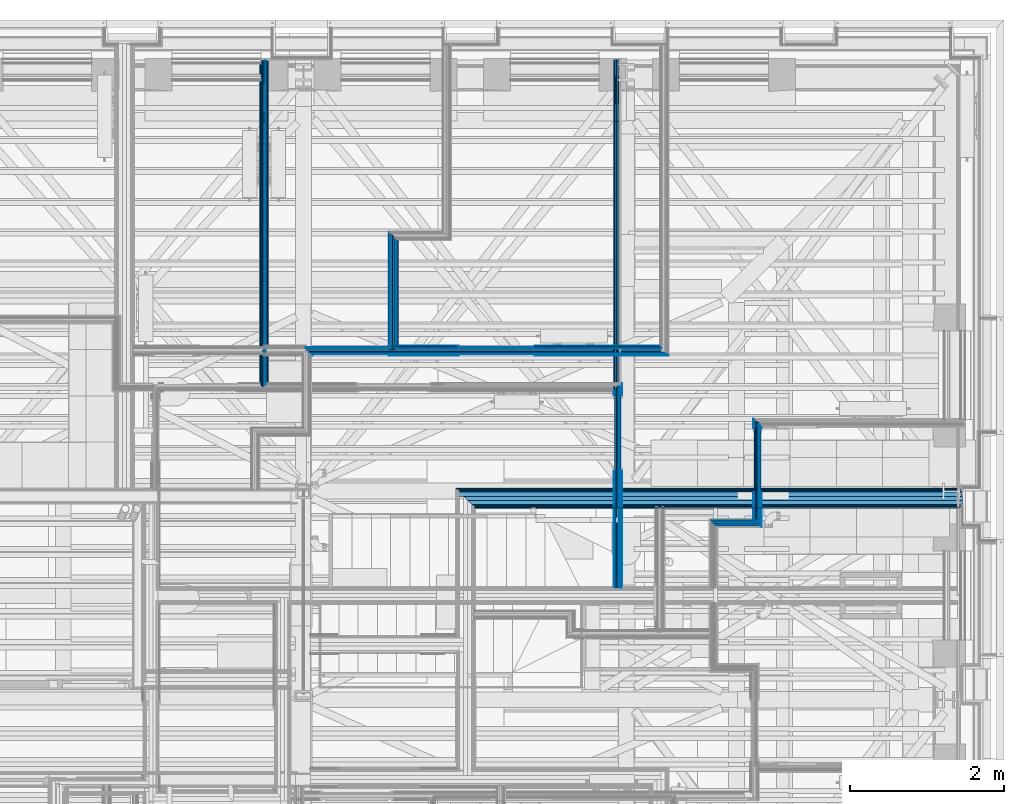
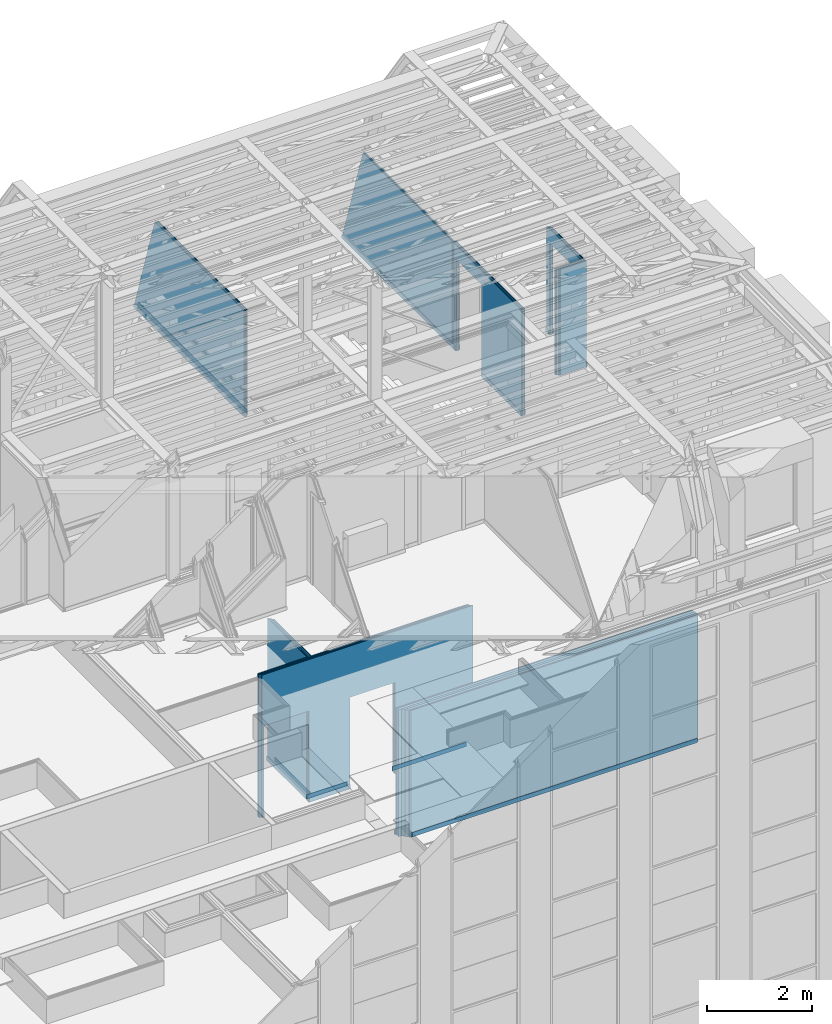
# One storey, part 58 of 183: 57 building element parts, 4 openings, 7 elements without a shape of their own.
"""IFC2X3 building model written with IfcOpenShell, lengths in metres."""

from ifc_helpers import new_model, entity, si_unit, converted_unit, derived_unit, money_unit, direction, frame, frame_2d, origin_with_axes, place, context, subcontext, project, spatial, polyline, rectangle, outline, extrude, clip, halfspace, material, type_object, element, aggregate, save


model = new_model("IFC2X3")

# Units and contexts
model_context = context("Model", 3, precision=1e-05, world=origin_with_axes(), true_north=direction((0.0, 1.0)))
body_context = subcontext(model_context, "Body", "Model", "MODEL_VIEW", scale=1.0)
ifc_project = project(units=[si_unit("LENGTHUNIT", "METRE"), si_unit("AREAUNIT", "SQUARE_METRE"), si_unit("VOLUMEUNIT", "CUBIC_METRE"), si_unit("ABSORBEDDOSEUNIT", "GRAY"), si_unit("AMOUNTOFSUBSTANCEUNIT", "MOLE"), si_unit("DOSEEQUIVALENTUNIT", "SIEVERT"), si_unit("ELECTRICCAPACITANCEUNIT", "FARAD"), si_unit("ELECTRICCHARGEUNIT", "COULOMB"), si_unit("ELECTRICCONDUCTANCEUNIT", "SIEMENS"), si_unit("ELECTRICCURRENTUNIT", "AMPERE"), si_unit("ELECTRICRESISTANCEUNIT", "OHM"), si_unit("ELECTRICVOLTAGEUNIT", "VOLT"), si_unit("ENERGYUNIT", "JOULE"), si_unit("FORCEUNIT", "NEWTON"), si_unit("FREQUENCYUNIT", "HERTZ"), si_unit("ILLUMINANCEUNIT", "LUX"), si_unit("INDUCTANCEUNIT", "HENRY"), si_unit("LUMINOUSFLUXUNIT", "LUMEN"), si_unit("LUMINOUSINTENSITYUNIT", "CANDELA"), si_unit("MAGNETICFLUXDENSITYUNIT", "TESLA"), si_unit("MAGNETICFLUXUNIT", "WEBER"), si_unit("MASSUNIT", "GRAM"), converted_unit("PLANEANGLEUNIT", "degree", entity("IfcReal", 0.0174532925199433), si_unit("PLANEANGLEUNIT", "RADIAN"), dimensions=[0, 0, 0, 0, 0, 0, 0]), si_unit("POWERUNIT", "WATT"), si_unit("PRESSUREUNIT", "PASCAL"), si_unit("RADIOACTIVITYUNIT", "BECQUEREL"), si_unit("SOLIDANGLEUNIT", "STERADIAN"), si_unit("THERMODYNAMICTEMPERATUREUNIT", "KELVIN"), si_unit("TIMEUNIT", "SECOND"), derived_unit("ACCELERATIONUNIT", [(si_unit("LENGTHUNIT", "METRE"), 1), (si_unit("TIMEUNIT", "SECOND"), -2)]), derived_unit("ANGULARVELOCITYUNIT", [(converted_unit("PLANEANGLEUNIT", "degree", entity("IfcReal", 0.0174532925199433), si_unit("PLANEANGLEUNIT", "RADIAN"), dimensions=[0, 0, 0, 0, 0, 0, 0]), 1), (si_unit("TIMEUNIT", "SECOND"), -1)]), derived_unit("CURVATUREUNIT", [(converted_unit("PLANEANGLEUNIT", "degree", entity("IfcReal", 0.0174532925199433), si_unit("PLANEANGLEUNIT", "RADIAN"), dimensions=[0, 0, 0, 0, 0, 0, 0]), 1), (si_unit("LENGTHUNIT", "METRE"), -1)]), derived_unit("DYNAMICVISCOSITYUNIT", [(si_unit("PRESSUREUNIT", "PASCAL"), 1), (si_unit("TIMEUNIT", "SECOND"), 1)]), derived_unit("HEATFLUXDENSITYUNIT", [(si_unit("POWERUNIT", "WATT"), 1), (si_unit("LENGTHUNIT", "METRE"), -2)]), derived_unit("HEATINGVALUEUNIT", [(si_unit("ENERGYUNIT", "JOULE"), 1), (si_unit("MASSUNIT", "GRAM"), -1)]), derived_unit("INTEGERCOUNTRATEUNIT", [(si_unit("TIMEUNIT", "SECOND"), -1)]), derived_unit("IONCONCENTRATIONUNIT", [(si_unit("MASSUNIT", "GRAM"), 1), (si_unit("VOLUMEUNIT", "CUBIC_METRE"), -1)]), derived_unit("ISOTHERMALMOISTURECAPACITYUNIT", [(si_unit("VOLUMEUNIT", "CUBIC_METRE"), 1), (si_unit("MASSUNIT", "GRAM"), -1)]), derived_unit("KINEMATICVISCOSITYUNIT", [(si_unit("AREAUNIT", "SQUARE_METRE"), 1), (si_unit("TIMEUNIT", "SECOND"), -1)]), derived_unit("LINEARFORCEUNIT", [(si_unit("FORCEUNIT", "NEWTON"), 1), (si_unit("LENGTHUNIT", "METRE"), -1)]), derived_unit("LINEARMOMENTUNIT", [(si_unit("FORCEUNIT", "NEWTON"), 1), (si_unit("LENGTHUNIT", "METRE"), -1)]), derived_unit("LINEARSTIFFNESSUNIT", [(si_unit("FORCEUNIT", "NEWTON"), 1), (si_unit("LENGTHUNIT", "METRE"), -1)]), derived_unit("LINEARVELOCITYUNIT", [(si_unit("LENGTHUNIT", "METRE"), 1), (si_unit("TIMEUNIT", "SECOND"), -1)]), derived_unit("LUMINOUSINTENSITYDISTRIBUTIONUNIT", [(si_unit("LUMINOUSINTENSITYUNIT", "CANDELA"), 1), (si_unit("LUMINOUSFLUXUNIT", "LUMEN"), -1)]), derived_unit("MASSDENSITYUNIT", [(si_unit("MASSUNIT", "GRAM"), 1), (si_unit("VOLUMEUNIT", "CUBIC_METRE"), -1)]), derived_unit("MASSFLOWRATEUNIT", [(si_unit("MASSUNIT", "GRAM"), 1), (si_unit("TIMEUNIT", "SECOND"), -1)]), derived_unit("MASSPERLENGTHUNIT", [(si_unit("MASSUNIT", "GRAM"), 1), (si_unit("LENGTHUNIT", "METRE"), -1)]), derived_unit("MODULUSOFELASTICITYUNIT", [(si_unit("FORCEUNIT", "NEWTON"), 1), (si_unit("AREAUNIT", "SQUARE_METRE"), -1)]), derived_unit("MODULUSOFLINEARSUBGRADEREACTIONUNIT", [(si_unit("FORCEUNIT", "NEWTON"), 1), (si_unit("LENGTHUNIT", "METRE"), -2)]), derived_unit("MODULUSOFROTATIONALSUBGRADEREACTIONUNIT", [(si_unit("FORCEUNIT", "NEWTON"), 1), (si_unit("LENGTHUNIT", "METRE"), 1)]), derived_unit("MODULUSOFSUBGRADEREACTIONUNIT", [(si_unit("FORCEUNIT", "NEWTON"), 1), (si_unit("VOLUMEUNIT", "CUBIC_METRE"), -1)]), derived_unit("MOISTUREDIFFUSIVITYUNIT", [(si_unit("VOLUMEUNIT", "CUBIC_METRE"), 1), (si_unit("TIMEUNIT", "SECOND"), -1)]), derived_unit("MOLECULARWEIGHTUNIT", [(si_unit("MASSUNIT", "GRAM"), 1), (si_unit("AMOUNTOFSUBSTANCEUNIT", "MOLE"), -1)]), derived_unit("PLANARFORCEUNIT", [(si_unit("FORCEUNIT", "NEWTON"), 1), (si_unit("LENGTHUNIT", "METRE"), -2)]), derived_unit("ROTATIONALFREQUENCYUNIT", [(si_unit("TIMEUNIT", "SECOND"), -1)]), derived_unit("ROTATIONALMASSUNIT", [(si_unit("MASSUNIT", "GRAM"), 1), (si_unit("LENGTHUNIT", "METRE"), 2)]), derived_unit("ROTATIONALSTIFFNESSUNIT", [(si_unit("FORCEUNIT", "NEWTON"), 1), (si_unit("LENGTHUNIT", "METRE"), 1), (converted_unit("PLANEANGLEUNIT", "degree", entity("IfcReal", 0.0174532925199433), si_unit("PLANEANGLEUNIT", "RADIAN"), dimensions=[0, 0, 0, 0, 0, 0, 0]), -1)]), derived_unit("SECTIONAREAINTEGRALUNIT", [(si_unit("LENGTHUNIT", "METRE"), 5)]), derived_unit("SECTIONMODULUSUNIT", [(si_unit("LENGTHUNIT", "METRE"), 3)]), derived_unit("SHEARMODULUSUNIT", [(si_unit("FORCEUNIT", "NEWTON"), 1), (si_unit("AREAUNIT", "SQUARE_METRE"), -1)]), derived_unit("SOUNDPOWERUNIT", [(si_unit("ENERGYUNIT", "JOULE"), 1), (si_unit("TIMEUNIT", "SECOND"), -1)]), derived_unit("SPECIFICHEATCAPACITYUNIT", [(si_unit("FORCEUNIT", "NEWTON"), 1), (si_unit("MASSUNIT", "GRAM"), -1), (si_unit("THERMODYNAMICTEMPERATUREUNIT", "KELVIN"), -1)]), derived_unit("TEMPERATUREGRADIENTUNIT", [(si_unit("THERMODYNAMICTEMPERATUREUNIT", "KELVIN"), 1), (si_unit("LENGTHUNIT", "METRE"), -1)]), derived_unit("THERMALADMITTANCEUNIT", [(si_unit("POWERUNIT", "WATT"), 1), (si_unit("AREAUNIT", "SQUARE_METRE"), -1), (si_unit("THERMODYNAMICTEMPERATUREUNIT", "KELVIN"), -1)]), derived_unit("THERMALCONDUCTANCEUNIT", [(si_unit("POWERUNIT", "WATT"), 1), (si_unit("LENGTHUNIT", "METRE"), -1), (si_unit("THERMODYNAMICTEMPERATUREUNIT", "KELVIN"), -1)]), derived_unit("THERMALEXPANSIONCOEFFICIENTUNIT", [(si_unit("THERMODYNAMICTEMPERATUREUNIT", "KELVIN"), -1)]), derived_unit("THERMALRESISTANCEUNIT", [(si_unit("AREAUNIT", "SQUARE_METRE"), 1), (si_unit("POWERUNIT", "WATT"), -1)]), derived_unit("THERMALTRANSMITTANCEUNIT", [(si_unit("POWERUNIT", "WATT"), 1), (si_unit("AREAUNIT", "SQUARE_METRE"), -1), (si_unit("THERMODYNAMICTEMPERATUREUNIT", "KELVIN"), -1)]), derived_unit("TORQUEUNIT", [(si_unit("FORCEUNIT", "NEWTON"), 1), (si_unit("LENGTHUNIT", "METRE"), 1)]), derived_unit("VAPORPERMEABILITYUNIT", [(si_unit("MASSUNIT", "GRAM"), 1), (si_unit("TIMEUNIT", "SECOND"), -1)]), derived_unit("VOLUMETRICFLOWRATEUNIT", [(si_unit("VOLUMEUNIT", "CUBIC_METRE"), 1), (si_unit("TIMEUNIT", "SECOND"), -1)]), derived_unit("WARPINGCONSTANTUNIT", [(si_unit("LENGTHUNIT", "METRE"), 6)]), derived_unit("WARPINGMOMENTUNIT", [(si_unit("FORCEUNIT", "NEWTON"), 1), (si_unit("LENGTHUNIT", "METRE"), 2)]), money_unit("GBP")], contexts=[model_context])

# Site, building, storey
site_placement = place(None, origin_with_axes())
site = spatial("IfcSite", under=ifc_project, at=site_placement, Name="Site", CompositionType="ELEMENT")
building_placement = place(site_placement, origin_with_axes())
building = spatial("IfcBuilding", under=site, at=building_placement, Name="Building01", CompositionType="ELEMENT")
storey_placement = place(building_placement, frame((0.0, 0.0, 5.15), z_axis=(0.0, 0.0, 1.0), x_axis=(1.0, 0.0, 0.0)))
storey = spatial("IfcBuildingStorey", under=building, at=storey_placement, Name="1F", CompositionType="ELEMENT", Elevation=5.15)

# Wall, building element parts
wall_type_1 = type_object("IfcWallType", Name="SHE_A-Walls_Type05a_Partition_95mm_tall", PredefinedType="NOTDEFINED")
wall_1_placement = place(storey_placement, frame((19.085284, 10.63, 0.0), z_axis=(0.0, 0.0, 1.0), x_axis=(0.0, 1.0, 0.0)))
wall_1 = element("IfcWall", 1, at=wall_1_placement, inside=storey, type_object=wall_type_1, Name="5A", ObjectType="SHE_A-Walls_Type05a_Partition_95mm_tall")
ifc_material_1 = material(Name="A_BSUK_Walls_Timber")
placement_1 = place(wall_1_placement, origin_with_axes())
building_element_part_1 = element("IfcBuildingElementPart", 2, at=placement_1, material=ifc_material_1, Name="1", context=body_context, shape_type="SweptSolid", body=[
    extrude(outline(polyline([(1.434378, -0.035), (0.05, -0.035), (0.05, -0.05), (1.419378, -0.05), (1.434378, -0.035)])), frame((0.0, 0.0, 0.015), z_axis=(0.0, 0.0, 1.0), x_axis=(1.0, 0.0, 0.0)), (0.0, 0.0, 1.0), 0.1),
])
ifc_material_2 = material(Name="A_BSUK_WallInternal_Finishes_Plasterboard")
building_element_part_2 = element("IfcBuildingElementPart", 3, at=placement_1, material=ifc_material_2, Name="2", context=body_context, shape_type="SweptSolid", body=[
    extrude(outline(polyline([(1.446378, -0.023), (0.035, -0.023), (0.035, -0.035), (1.434378, -0.035), (1.446378, -0.023)])), origin_with_axes(), (0.0, 0.0, 1.0), 3.32),
])
ifc_material_3 = material(Name="Air Cavity")
building_element_part_3 = element("IfcBuildingElementPart", 4, at=placement_1, material=ifc_material_3, Name="3", context=body_context, shape_type="SweptSolid", body=[
    extrude(outline(polyline([(1.469378, 0.0), (0.035, 0.0), (0.035, -0.023), (1.446378, -0.023), (1.469378, 0.0)])), origin_with_axes(), (0.0, 0.0, 1.0), 3.32),
])
ifc_material_4 = material(Name="A_BSUK_Insulation")
building_element_part_4 = element("IfcBuildingElementPart", 5, at=placement_1, material=ifc_material_4, Name="4", context=body_context, shape_type="SweptSolid", body=[
    extrude(outline(polyline([(1.494378, 0.025), (0.0, 0.025), (0.0, 0.0), (1.469378, 0.0), (1.494378, 0.025)])), origin_with_axes(), (0.0, 0.0, 1.0), 3.32),
])
building_element_part_5 = element("IfcBuildingElementPart", 6, at=placement_1, material=ifc_material_3, Name="5", context=body_context, shape_type="SweptSolid", body=[
    extrude(outline(polyline([(1.517378, 0.048), (0.0, 0.048), (0.0, 0.025), (1.494378, 0.025), (1.517378, 0.048)])), origin_with_axes(), (0.0, 0.0, 1.0), 3.32),
])
building_element_part_6 = element("IfcBuildingElementPart", 7, at=placement_1, material=ifc_material_2, Name="6", context=body_context, shape_type="SweptSolid", body=[
    extrude(outline(polyline([(1.529378, 0.06), (0.035, 0.06), (0.035, 0.048), (1.517378, 0.048), (1.529378, 0.06)])), origin_with_axes(), (0.0, 0.0, 1.0), 3.32),
])
building_element_part_7 = element("IfcBuildingElementPart", 8, at=placement_1, material=ifc_material_1, Name="7", context=body_context, shape_type="SweptSolid", body=[
    extrude(outline(polyline([(1.544378, 0.075), (0.05, 0.075), (0.035, 0.06), (1.529378, 0.06), (1.544378, 0.075)])), frame((0.0, 0.0, 0.015), z_axis=(0.0, 0.0, 1.0), x_axis=(1.0, 0.0, 0.0)), (0.0, 0.0, 1.0), 0.1),
])
aggregate(wall_1, [building_element_part_1, building_element_part_2, building_element_part_3, building_element_part_4, building_element_part_5, building_element_part_6, building_element_part_7])

wall_type_2 = type_object("IfcWallType", Name="SHE_A-Walls_Type01c_Partywall_225mm_twin_tall", PredefinedType="NOTDEFINED")
wall_2_placement = place(storey_placement, frame((26.444, 8.732, 0.0), z_axis=(0.0, 0.0, 1.0), x_axis=(-1.0, 0.0, 0.0)))
wall_2 = element("IfcWall", 9, at=wall_2_placement, inside=storey, type_object=wall_type_2, Name="1C", ObjectType="SHE_A-Walls_Type01c_Partywall_225mm_twin_tall")
placement_2 = place(wall_2_placement, origin_with_axes())
building_element_part_8 = element("IfcBuildingElementPart", 10, at=placement_2, material=ifc_material_1, Name="1", context=body_context, shape_type="SweptSolid", body=[
    extrude(outline(polyline([(6.546339, -0.088), (0.027, -0.088), (0.027, -0.103), (6.561339, -0.103), (6.546339, -0.088)])), frame((0.0, 0.0, 0.015), z_axis=(0.0, 0.0, 1.0), x_axis=(1.0, 0.0, 0.0)), (0.0, 0.0, 1.0), 0.1),
])
building_element_part_9 = element("IfcBuildingElementPart", 11, at=placement_2, material=ifc_material_2, Name="2", context=body_context, shape_type="SweptSolid", body=[
    extrude(rectangle(XDim=6.504339, YDim=0.015, at=frame_2d((3.279169, -0.0805), x_axis=(-1.0, 0.0))), origin_with_axes(), (0.0, 0.0, 1.0), 2.95),
])
building_element_part_10 = element("IfcBuildingElementPart", 12, at=placement_2, material=ifc_material_2, Name="3", context=body_context, shape_type="SweptSolid", body=[
    extrude(rectangle(XDim=6.504339, YDim=0.015, at=frame_2d((3.264169, -0.0655), x_axis=(-1.0, 0.0))), origin_with_axes(), (0.0, 0.0, 1.0), 2.95),
])
building_element_part_11 = element("IfcBuildingElementPart", 13, at=placement_2, material=ifc_material_3, Name="4", context=body_context, shape_type="SweptSolid", body=[
    extrude(rectangle(XDim=6.504339, YDim=0.058, at=frame_2d((3.264169, -0.029), x_axis=(-1.0, 0.0))), origin_with_axes(), (0.0, 0.0, 1.0), 2.95),
])
building_element_part_12 = element("IfcBuildingElementPart", 14, at=placement_2, material=ifc_material_4, Name="5", context=body_context, shape_type="SweptSolid", body=[
    extrude(outline(polyline([(6.408339, 0.05), (0.0, 0.05), (0.0, 0.0), (6.458339, 0.0), (6.408339, 0.05)])), origin_with_axes(), (0.0, 0.0, 1.0), 2.95),
])
building_element_part_13 = element("IfcBuildingElementPart", 15, at=placement_2, material=ifc_material_3, Name="6", context=body_context, shape_type="SweptSolid", body=[
    extrude(outline(polyline([(6.351339, 0.107), (0.0, 0.107), (0.0, 0.05), (6.408339, 0.05), (6.351339, 0.107)])), origin_with_axes(), (0.0, 0.0, 1.0), 2.95),
])
building_element_part_14 = element("IfcBuildingElementPart", 16, at=placement_2, material=ifc_material_2, Name="7", context=body_context, shape_type="SweptSolid", body=[
    extrude(rectangle(XDim=0.015, YDim=6.339339, at=frame_2d((3.181669, 0.1145), x_axis=(0.0, -1.0))), origin_with_axes(), (0.0, 0.0, 1.0), 2.95),
])
building_element_part_15 = element("IfcBuildingElementPart", 17, at=placement_2, material=ifc_material_2, Name="8", context=body_context, shape_type="SweptSolid", body=[
    extrude(rectangle(XDim=6.294339, YDim=0.015, at=frame_2d((3.174169, 0.1295), x_axis=(-1.0, 0.0))), origin_with_axes(), (0.0, 0.0, 1.0), 2.95),
])
building_element_part_16 = element("IfcBuildingElementPart", 18, at=placement_2, material=ifc_material_1, Name="9", context=body_context, shape_type="SweptSolid", body=[
    extrude(outline(polyline([(6.306339, 0.152), (0.042, 0.152), (0.027, 0.137), (6.321339, 0.137), (6.306339, 0.152)])), frame((0.0, 0.0, 0.015), z_axis=(0.0, 0.0, 1.0), x_axis=(1.0, 0.0, 0.0)), (0.0, 0.0, 1.0), 0.1),
])
building_element_part_17 = element("IfcBuildingElementPart", 19, at=placement_2, material=ifc_material_1, Name="10", context=body_context, shape_type="SweptSolid", body=[
    extrude(outline(polyline([(6.306339, 0.152), (0.042, 0.152), (0.027, 0.137), (6.321339, 0.137), (6.306339, 0.152)])), frame((0.0, 0.0, 0.015), z_axis=(0.0, 0.0, 1.0), x_axis=(1.0, 0.0, 0.0)), (0.0, 0.0, 1.0), 0.1),
])
building_element_part_18 = element("IfcBuildingElementPart", 20, at=placement_2, material=ifc_material_1, Name="12", context=body_context, shape_type="SweptSolid", body=[
    extrude(outline(polyline([(6.321339, 0.152), (0.042, 0.152), (0.027, 0.137), (6.336339, 0.137), (6.321339, 0.152)])), frame((0.0, 0.0, 0.015), z_axis=(0.0, 0.0, 1.0), x_axis=(1.0, 0.0, 0.0)), (0.0, 0.0, 1.0), 0.1),
])
aggregate(wall_2, [building_element_part_8, building_element_part_9, building_element_part_10, building_element_part_11, building_element_part_12, building_element_part_13, building_element_part_14, building_element_part_15, building_element_part_16, building_element_part_17, building_element_part_18])

# Wall, openings, building element parts
wall_3_placement = place(storey_placement, frame((17.94, 10.605, 0.0), z_axis=(0.0, 0.0, 1.0), x_axis=(1.0, 0.0, 0.0)))
wall_3 = element("IfcWall", 21, at=wall_3_placement, inside=storey, type_object=wall_type_1, Name="5A", ObjectType="SHE_A-Walls_Type05a_Partition_95mm_tall")
opening_1_placement = place(wall_3_placement, frame((0.093398, -0.05, -0.015), z_axis=(0.0, 0.0, 1.0), x_axis=(1.0, 0.0, 0.0)))
element("IfcOpeningElement", 22, at=opening_1_placement, cuts=wall_3, Name="Opening", ObjectType="Opening", context=body_context, shape_type="SweptSolid", body=[
    extrude(rectangle(XDim=0.984, YDim=2.142, at=frame_2d((-0.492, 1.071), x_axis=(1.0, 0.0))), frame((0.0, 0.0, 0.0), z_axis=(0.0, 1.0, 0.0), x_axis=(-1.0, 0.0, 0.0)), (0.0, 0.0, 1.0), 0.125),
])
opening_2_placement = place(wall_3_placement, frame((1.978284, -0.05, -0.015), z_axis=(0.0, 0.0, 1.0), x_axis=(1.0, 0.0, 0.0)))
element("IfcOpeningElement", 23, at=opening_2_placement, cuts=wall_3, Name="Opening", ObjectType="Opening", context=body_context, shape_type="SweptSolid", body=[
    extrude(rectangle(XDim=0.984, YDim=2.142, at=frame_2d((-0.492, 1.071), x_axis=(-1.0, 0.0))), frame((0.0, 0.0, 0.0), z_axis=(0.0, 1.0, 0.0), x_axis=(-1.0, 0.0, 0.0)), (0.0, 0.0, 1.0), 0.125),
])
placement_3 = place(wall_3_placement, origin_with_axes())
building_element_part_19 = element("IfcBuildingElementPart", 24, at=placement_3, material=ifc_material_1, Name="1", context=body_context, shape_type="SweptSolid", body=[
    extrude(outline(polyline([(4.685, -0.035), (0.06, -0.035), (0.06, -0.05), (4.7, -0.05), (4.685, -0.035)])), frame((0.0, 0.0, 0.015), z_axis=(0.0, 0.0, 1.0), x_axis=(1.0, 0.0, 0.0)), (0.0, 0.0, 1.0), 0.1),
])
building_element_part_20 = element("IfcBuildingElementPart", 25, at=placement_3, material=ifc_material_2, Name="2", context=body_context, shape_type="SweptSolid", body=[
    extrude(outline(polyline([(4.673, -0.023), (0.048, -0.023), (0.048, -0.035), (4.685, -0.035), (4.673, -0.023)])), origin_with_axes(), (0.0, 0.0, 1.0), 3.32),
])
building_element_part_21 = element("IfcBuildingElementPart", 26, at=placement_3, material=ifc_material_3, Name="3", context=body_context, shape_type="SweptSolid", body=[
    extrude(outline(polyline([(4.65, 0.0), (0.048, 0.0), (0.048, -0.023), (4.673, -0.023), (4.65, 0.0)])), origin_with_axes(), (0.0, 0.0, 1.0), 3.32),
])
building_element_part_22 = element("IfcBuildingElementPart", 27, at=placement_3, material=ifc_material_4, Name="4", context=body_context, shape_type="SweptSolid", body=[
    extrude(rectangle(XDim=4.625, YDim=0.025, at=frame_2d((2.3125, 0.0125), x_axis=(-1.0, 0.0))), origin_with_axes(), (0.0, 0.0, 1.0), 3.32),
])
building_element_part_23 = element("IfcBuildingElementPart", 28, at=placement_3, material=ifc_material_3, Name="5", context=body_context, shape_type="SweptSolid", body=[
    extrude(rectangle(XDim=4.625, YDim=0.023, at=frame_2d((2.3125, 0.0365), x_axis=(-1.0, 0.0))), origin_with_axes(), (0.0, 0.0, 1.0), 3.32),
])
building_element_part_24 = element("IfcBuildingElementPart", 29, at=placement_3, material=ifc_material_2, Name="6", context=body_context, shape_type="SweptSolid", body=[
    extrude(rectangle(XDim=1.097284, YDim=0.012, at=frame_2d((0.548642, 0.054), x_axis=(-1.0, 0.0))), origin_with_axes(), (0.0, 0.0, 1.0), 3.32),
])
building_element_part_25 = element("IfcBuildingElementPart", 30, at=placement_3, material=ifc_material_2, Name="7", context=body_context, shape_type="SweptSolid", body=[
    extrude(outline(polyline([(4.59, 0.06), (1.168284, 0.06), (1.168284, 0.048), (4.602, 0.048), (4.59, 0.06)])), origin_with_axes(), (0.0, 0.0, 1.0), 3.32),
])
building_element_part_26 = element("IfcBuildingElementPart", 31, at=placement_3, material=ifc_material_1, Name="8", context=body_context, shape_type="SweptSolid", body=[
    extrude(rectangle(XDim=0.015, YDim=0.881, at=frame_2d((1.510784, 0.0675), x_axis=(0.0, -1.0))), frame((0.0, 0.0, 0.015), z_axis=(0.0, 0.0, 1.0), x_axis=(1.0, 0.0, 0.0)), (0.0, 0.0, 1.0), 0.1),
])
building_element_part_27 = element("IfcBuildingElementPart", 32, at=placement_3, material=ifc_material_1, Name="9", context=body_context, shape_type="SweptSolid", body=[
    extrude(outline(polyline([(4.575, 0.075), (1.070284, 0.075), (1.085284, 0.06), (4.59, 0.06), (4.575, 0.075)])), frame((0.0, 0.0, 0.015), z_axis=(0.0, 0.0, 1.0), x_axis=(1.0, 0.0, 0.0)), (0.0, 0.0, 1.0), 0.1),
])
building_element_part_28 = element("IfcBuildingElementPart", 33, at=placement_3, material=ifc_material_1, Name="10", context=body_context, shape_type="SweptSolid", body=[
    extrude(outline(polyline([(4.575, 0.075), (1.180284, 0.075), (1.180284, 0.06), (4.59, 0.06), (4.575, 0.075)])), frame((0.0, 0.0, 0.015), z_axis=(0.0, 0.0, 1.0), x_axis=(1.0, 0.0, 0.0)), (0.0, 0.0, 1.0), 0.1),
])
building_element_part_29 = element("IfcBuildingElementPart", 34, at=placement_3, material=ifc_material_1, Name="11", context=body_context, shape_type="SweptSolid", body=[
    extrude(outline(polyline([(4.575, 0.075), (2.920284, 0.075), (2.920284, 0.06), (4.59, 0.06), (4.575, 0.075)])), frame((0.0, 0.0, 0.015), z_axis=(0.0, 0.0, 1.0), x_axis=(1.0, 0.0, 0.0)), (0.0, 0.0, 1.0), 0.1),
])
aggregate(wall_3, [building_element_part_19, building_element_part_20, building_element_part_21, building_element_part_22, building_element_part_23, building_element_part_24, building_element_part_25, building_element_part_26, building_element_part_27, building_element_part_28, building_element_part_29])

# Wall, building element parts
wall_type_3 = type_object("IfcWallType", Name="SHE_A-Walls_Type05b_Partition_80mm", PredefinedType="NOTDEFINED")
wall_4_placement = place(storey_placement, frame((17.412976, 10.151939, 9.78), z_axis=(0.0, 0.0, 1.0), x_axis=(0.0, 1.0, 0.0)))
wall_4 = element("IfcWall", 35, at=wall_4_placement, inside=storey, type_object=wall_type_3, Name="5B", ObjectType="SHE_A-Walls_Type05b_Partition_80mm")
placement_4 = place(wall_4_placement, origin_with_axes())
building_element_part_30 = element("IfcBuildingElementPart", 36, at=placement_4, material=ifc_material_1, Name="1", context=body_context, shape_type="Clipping", body=[
    clip(extrude(rectangle(XDim=4.17633, YDim=0.015, at=frame_2d((2.131165, -0.0345), x_axis=(-1.0, 0.0))), frame((0.0, 0.0, 0.015), z_axis=(0.0, 0.0, 1.0), x_axis=(1.0, 0.0, 0.0)), (0.0, 0.0, 1.0), 0.1), halfspace(frame((3.820828, 0.0, 1.241462), z_axis=(-0.95105652, 0.0, -0.30901699), x_axis=(0.0, -1.0, 0.0)), True)),
])
building_element_part_31 = element("IfcBuildingElementPart", 37, at=placement_4, material=ifc_material_2, Name="2", context=body_context, shape_type="Clipping", body=[
    clip(extrude(rectangle(XDim=4.196204, YDim=0.015, at=frame_2d((2.126102, -0.0195), x_axis=(-1.0, 0.0))), origin_with_axes(), (0.0, 0.0, 1.0), 2.468), halfspace(frame((3.820828, 0.0, 1.241462), z_axis=(-0.95105652, 0.0, -0.30901699), x_axis=(0.0, -1.0, 0.0)), True)),
])
building_element_part_32 = element("IfcBuildingElementPart", 38, at=placement_4, material=ifc_material_3, Name="3", context=body_context, shape_type="Clipping", body=[
    clip(extrude(rectangle(XDim=4.196204, YDim=0.012, at=frame_2d((2.126102, -0.006), x_axis=(-1.0, 0.0))), origin_with_axes(), (0.0, 0.0, 1.0), 2.468), halfspace(frame((3.820828, 0.0, 1.241462), z_axis=(-0.95105652, 0.0, -0.30901699), x_axis=(0.0, -1.0, 0.0)), True)),
])
building_element_part_33 = element("IfcBuildingElementPart", 39, at=placement_4, material=ifc_material_4, Name="4", context=body_context, shape_type="Clipping", body=[
    clip(extrude(rectangle(XDim=4.224204, YDim=0.025, at=frame_2d((2.112102, 0.0125), x_axis=(-1.0, 0.0))), origin_with_axes(), (0.0, 0.0, 1.0), 2.468), halfspace(frame((3.820828, 0.0, 1.241462), z_axis=(-0.95105652, 0.0, -0.30901699), x_axis=(0.0, -1.0, 0.0)), True)),
])
building_element_part_34 = element("IfcBuildingElementPart", 40, at=placement_4, material=ifc_material_3, Name="5", context=body_context, shape_type="Clipping", body=[
    clip(extrude(rectangle(XDim=4.224204, YDim=0.013, at=frame_2d((2.112102, 0.0315), x_axis=(-1.0, 0.0))), origin_with_axes(), (0.0, 0.0, 1.0), 2.468), halfspace(frame((3.820828, 0.0, 1.241462), z_axis=(-0.95105652, 0.0, -0.30901699), x_axis=(0.0, -1.0, 0.0)), True)),
])
building_element_part_35 = element("IfcBuildingElementPart", 41, at=placement_4, material=ifc_material_2, Name="6", context=body_context, shape_type="Clipping", body=[
    clip(extrude(rectangle(XDim=4.211204, YDim=0.015, at=frame_2d((2.118602, 0.0455), x_axis=(-1.0, 0.0))), origin_with_axes(), (0.0, 0.0, 1.0), 2.468), halfspace(frame((3.820828, 0.0, 1.241462), z_axis=(-0.95105652, 0.0, -0.30901699), x_axis=(0.0, -1.0, 0.0)), True)),
])
building_element_part_36 = element("IfcBuildingElementPart", 42, at=placement_4, material=ifc_material_1, Name="7", context=body_context, shape_type="Clipping", body=[
    clip(extrude(rectangle(XDim=4.17633, YDim=0.015, at=frame_2d((2.131165, 0.0605), x_axis=(-1.0, 0.0))), frame((0.0, 0.0, 0.015), z_axis=(0.0, 0.0, 1.0), x_axis=(1.0, 0.0, 0.0)), (0.0, 0.0, 1.0), 0.1), halfspace(frame((3.820828, 0.0, 1.241462), z_axis=(-0.95105652, 0.0, -0.30901699), x_axis=(0.0, -1.0, 0.0)), True)),
])
aggregate(wall_4, [building_element_part_30, building_element_part_31, building_element_part_32, building_element_part_33, building_element_part_34, building_element_part_35, building_element_part_36])

# Wall, opening, building element parts
wall_5_placement = place(storey_placement, frame((21.992976, 7.549915, 9.78), z_axis=(0.0, 0.0, 1.0), x_axis=(0.0, 1.0, 0.0)))
wall_5 = element("IfcWall", 43, at=wall_5_placement, inside=storey, type_object=wall_type_3, Name="5B", ObjectType="SHE_A-Walls_Type05b_Partition_80mm")
opening_3_placement = place(wall_5_placement, frame((1.508024, 0.068, 0.0), z_axis=(0.0, 0.0, 1.0), x_axis=(1.0, 0.0, 0.0)))
element("IfcOpeningElement", 44, at=opening_3_placement, cuts=wall_5, Name="Opening", ObjectType="Opening", context=body_context, shape_type="SweptSolid", body=[
    extrude(rectangle(XDim=0.984, YDim=2.142, at=frame_2d((0.492, 1.071), x_axis=(1.0, 0.0))), frame((0.0, 0.0, 0.0), z_axis=(0.0, -1.0, 0.0), x_axis=(1.0, 0.0, 0.0)), (0.0, 0.0, 1.0), 0.11),
])
placement_5 = place(wall_5_placement, origin_with_axes())
building_element_part_37 = element("IfcBuildingElementPart", 45, at=placement_5, material=ifc_material_1, Name="1", context=body_context, shape_type="SweptSolid", body=[
    extrude(outline(polyline([(2.630024, -0.027), (0.0, -0.027), (0.0, -0.042), (2.645024, -0.042), (2.630024, -0.027)])), frame((0.0, 0.0, 0.015), z_axis=(0.0, 0.0, 1.0), x_axis=(1.0, 0.0, 0.0)), (0.0, 0.0, 1.0), 0.1),
])
building_element_part_38 = element("IfcBuildingElementPart", 46, at=placement_5, material=ifc_material_2, Name="2", context=body_context, shape_type="SweptSolid", body=[
    extrude(outline(polyline([(2.615024, -0.012), (0.0, -0.012), (0.0, -0.027), (2.630024, -0.027), (2.615024, -0.012)])), origin_with_axes(), (0.0, 0.0, 1.0), 2.468),
])
building_element_part_39 = element("IfcBuildingElementPart", 47, at=placement_5, material=ifc_material_3, Name="3", context=body_context, shape_type="SweptSolid", body=[
    extrude(outline(polyline([(2.603024, 0.0), (0.0, 0.0), (0.0, -0.012), (2.615024, -0.012), (2.603024, 0.0)])), origin_with_axes(), (0.0, 0.0, 1.0), 2.468),
])
building_element_part_40 = element("IfcBuildingElementPart", 48, at=placement_5, material=ifc_material_4, Name="4", context=body_context, shape_type="Clipping", body=[
    clip(extrude(rectangle(XDim=6.836743, YDim=0.025, at=frame_2d((3.418371, 0.0125), x_axis=(-1.0, 0.0))), origin_with_axes(), (0.0, 0.0, 1.0), 2.468), halfspace(frame((6.183892, 0.0, 2.009268), z_axis=(-0.95105652, 0.0, -0.30901699), x_axis=(0.0, -1.0, 0.0)), True)),
])
building_element_part_41 = element("IfcBuildingElementPart", 49, at=placement_5, material=ifc_material_3, Name="5", context=body_context, shape_type="Clipping", body=[
    clip(extrude(rectangle(XDim=6.836743, YDim=0.013, at=frame_2d((3.418371, 0.0315), x_axis=(-1.0, 0.0))), origin_with_axes(), (0.0, 0.0, 1.0), 2.468), halfspace(frame((6.183892, 0.0, 2.009268), z_axis=(-0.95105652, 0.0, -0.30901699), x_axis=(0.0, -1.0, 0.0)), True)),
])
building_element_part_42 = element("IfcBuildingElementPart", 50, at=placement_5, material=ifc_material_2, Name="6", context=body_context, shape_type="SweptSolid", body=[
    extrude(rectangle(XDim=2.565024, YDim=0.015, at=frame_2d((1.282512, 0.0455), x_axis=(-1.0, 0.0))), origin_with_axes(), (0.0, 0.0, 1.0), 2.468),
])
building_element_part_43 = element("IfcBuildingElementPart", 51, at=placement_5, material=ifc_material_2, Name="7", context=body_context, shape_type="Clipping", body=[
    clip(extrude(rectangle(XDim=4.206719, YDim=0.015, at=frame_2d((4.733384, 0.0455), x_axis=(-1.0, 0.0))), origin_with_axes(), (0.0, 0.0, 1.0), 2.468), halfspace(frame((6.183892, 0.0, 2.009268), z_axis=(-0.95105652, 0.0, -0.30901699), x_axis=(0.0, -1.0, 0.0)), True)),
])
building_element_part_44 = element("IfcBuildingElementPart", 52, at=placement_5, material=ifc_material_1, Name="8", context=body_context, shape_type="SweptSolid", body=[
    extrude(outline(polyline([(2.535024, 0.068), (0.015, 0.068), (0.015, 0.053), (2.550024, 0.053), (2.535024, 0.068)])), frame((0.0, 0.0, 0.015), z_axis=(0.0, 0.0, 1.0), x_axis=(1.0, 0.0, 0.0)), (0.0, 0.0, 1.0), 0.1),
])
building_element_part_45 = element("IfcBuildingElementPart", 53, at=placement_5, material=ifc_material_1, Name="9", context=body_context, shape_type="Clipping", body=[
    clip(extrude(outline(polyline([(6.831869, 0.068), (2.535024, 0.068), (2.550024, 0.053), (6.831869, 0.053), (6.831869, 0.068)])), frame((0.0, 0.0, 0.015), z_axis=(0.0, 0.0, 1.0), x_axis=(1.0, 0.0, 0.0)), (0.0, 0.0, 1.0), 0.1), halfspace(frame((6.183892, 0.0, 2.009268), z_axis=(-0.95105652, 0.0, -0.30901699), x_axis=(0.0, -1.0, 0.0)), True)),
])
aggregate(wall_5, [building_element_part_37, building_element_part_38, building_element_part_39, building_element_part_40, building_element_part_41, building_element_part_42, building_element_part_43, building_element_part_44, building_element_part_45])

wall_6_placement = place(storey_placement, frame((23.803, 8.401915, 9.78), z_axis=(0.0, 0.0, 1.0), x_axis=(0.0, 1.0, 0.0)))
wall_6 = element("IfcWall", 54, at=wall_6_placement, inside=storey, type_object=wall_type_3, Name="5B", ObjectType="SHE_A-Walls_Type05b_Partition_80mm")
opening_4_placement = place(wall_6_placement, frame((0.382109, -0.042, 0.0), z_axis=(0.0, 0.0, 1.0), x_axis=(1.0, 0.0, 0.0)))
element("IfcOpeningElement", 55, at=opening_4_placement, cuts=wall_6, Name="Opening", ObjectType="Opening", context=body_context, shape_type="SweptSolid", body=[
    extrude(rectangle(XDim=0.834, YDim=2.142, at=frame_2d((-0.417, 1.071), x_axis=(1.0, 0.0))), frame((0.0, 0.0, 0.0), z_axis=(0.0, 1.0, 0.0), x_axis=(-1.0, 0.0, 0.0)), (0.0, 0.0, 1.0), 0.11),
])
placement_6 = place(wall_6_placement, origin_with_axes())
building_element_part_46 = element("IfcBuildingElementPart", 56, at=placement_6, material=ifc_material_1, Name="1", context=body_context, shape_type="SweptSolid", body=[
    extrude(outline(polyline([(1.243109, -0.027), (-0.052, -0.027), (-0.067, -0.042), (1.228109, -0.042), (1.243109, -0.027)])), frame((0.0, 0.0, 0.015), z_axis=(0.0, 0.0, 1.0), x_axis=(1.0, 0.0, 0.0)), (0.0, 0.0, 1.0), 0.1),
])
building_element_part_47 = element("IfcBuildingElementPart", 57, at=placement_6, material=ifc_material_2, Name="2", context=body_context, shape_type="SweptSolid", body=[
    extrude(outline(polyline([(1.258109, -0.012), (-0.037, -0.012), (-0.052, -0.027), (1.243109, -0.027), (1.258109, -0.012)])), origin_with_axes(), (0.0, 0.0, 1.0), 2.468),
])
building_element_part_48 = element("IfcBuildingElementPart", 58, at=placement_6, material=ifc_material_3, Name="3", context=body_context, shape_type="SweptSolid", body=[
    extrude(outline(polyline([(1.270109, 0.0), (-0.025, 0.0), (-0.037, -0.012), (1.258109, -0.012), (1.270109, 0.0)])), origin_with_axes(), (0.0, 0.0, 1.0), 2.468),
])
building_element_part_49 = element("IfcBuildingElementPart", 59, at=placement_6, material=ifc_material_4, Name="4", context=body_context, shape_type="SweptSolid", body=[
    extrude(rectangle(XDim=1.295109, YDim=0.025, at=frame_2d((0.647555, 0.0125), x_axis=(-1.0, 0.0))), origin_with_axes(), (0.0, 0.0, 1.0), 2.468),
])
building_element_part_50 = element("IfcBuildingElementPart", 60, at=placement_6, material=ifc_material_3, Name="5", context=body_context, shape_type="SweptSolid", body=[
    extrude(rectangle(XDim=1.295109, YDim=0.013, at=frame_2d((0.647555, 0.0315), x_axis=(-1.0, 0.0))), origin_with_axes(), (0.0, 0.0, 1.0), 2.468),
])
building_element_part_51 = element("IfcBuildingElementPart", 61, at=placement_6, material=ifc_material_2, Name="6", context=body_context, shape_type="SweptSolid", body=[
    extrude(outline(polyline([(1.323109, 0.053), (0.028, 0.053), (0.013, 0.038), (1.308109, 0.038), (1.323109, 0.053)])), origin_with_axes(), (0.0, 0.0, 1.0), 2.468),
])
building_element_part_52 = element("IfcBuildingElementPart", 62, at=placement_6, material=ifc_material_1, Name="7", context=body_context, shape_type="SweptSolid", body=[
    extrude(outline(polyline([(1.338109, 0.068), (0.043, 0.068), (0.028, 0.053), (1.323109, 0.053), (1.338109, 0.068)])), frame((0.0, 0.0, 0.015), z_axis=(0.0, 0.0, 1.0), x_axis=(1.0, 0.0, 0.0)), (0.0, 0.0, 1.0), 0.1),
])
aggregate(wall_6, [building_element_part_46, building_element_part_47, building_element_part_48, building_element_part_49, building_element_part_50, building_element_part_51, building_element_part_52])

# Wall, building element parts
wall_7_placement = place(storey_placement, frame((23.206821, 8.401915, 9.78), z_axis=(0.0, 0.0, 1.0), x_axis=(1.0, 0.0, 0.0)))
wall_7 = element("IfcWall", 63, at=wall_7_placement, inside=storey, type_object=wall_type_3, Name="5B", ObjectType="SHE_A-Walls_Type05b_Partition_80mm")
placement_7 = place(wall_7_placement, origin_with_axes())
building_element_part_53 = element("IfcBuildingElementPart", 64, at=placement_7, material=ifc_material_2, Name="2", context=body_context, shape_type="SweptSolid", body=[
    extrude(outline(polyline([(0.608179, -0.037), (0.037, -0.037), (0.052, -0.052), (0.623179, -0.052), (0.608179, -0.037)])), origin_with_axes(), (0.0, 0.0, 1.0), 2.468),
])
building_element_part_54 = element("IfcBuildingElementPart", 65, at=placement_7, material=ifc_material_3, Name="3", context=body_context, shape_type="SweptSolid", body=[
    extrude(outline(polyline([(0.596179, -0.025), (0.025, -0.025), (0.037, -0.037), (0.608179, -0.037), (0.596179, -0.025)])), origin_with_axes(), (0.0, 0.0, 1.0), 2.468),
])
building_element_part_55 = element("IfcBuildingElementPart", 66, at=placement_7, material=ifc_material_4, Name="4", context=body_context, shape_type="SweptSolid", body=[
    extrude(outline(polyline([(0.596179, 0.0), (0.0, 0.0), (0.025, -0.025), (0.596179, -0.025), (0.596179, 0.0)])), origin_with_axes(), (0.0, 0.0, 1.0), 2.468),
])
building_element_part_56 = element("IfcBuildingElementPart", 67, at=placement_7, material=ifc_material_3, Name="5", context=body_context, shape_type="SweptSolid", body=[
    extrude(outline(polyline([(0.596179, 0.013), (-0.013, 0.013), (0.0, 0.0), (0.596179, 0.0), (0.596179, 0.013)])), origin_with_axes(), (0.0, 0.0, 1.0), 2.468),
])
building_element_part_57 = element("IfcBuildingElementPart", 68, at=placement_7, material=ifc_material_2, Name="6", context=body_context, shape_type="SweptSolid", body=[
    extrude(outline(polyline([(0.543179, 0.028), (-0.028, 0.028), (-0.013, 0.013), (0.558179, 0.013), (0.543179, 0.028)])), origin_with_axes(), (0.0, 0.0, 1.0), 2.468),
])
aggregate(wall_7, [building_element_part_53, building_element_part_54, building_element_part_55, building_element_part_56, building_element_part_57])

save(model, "model.ifc")
